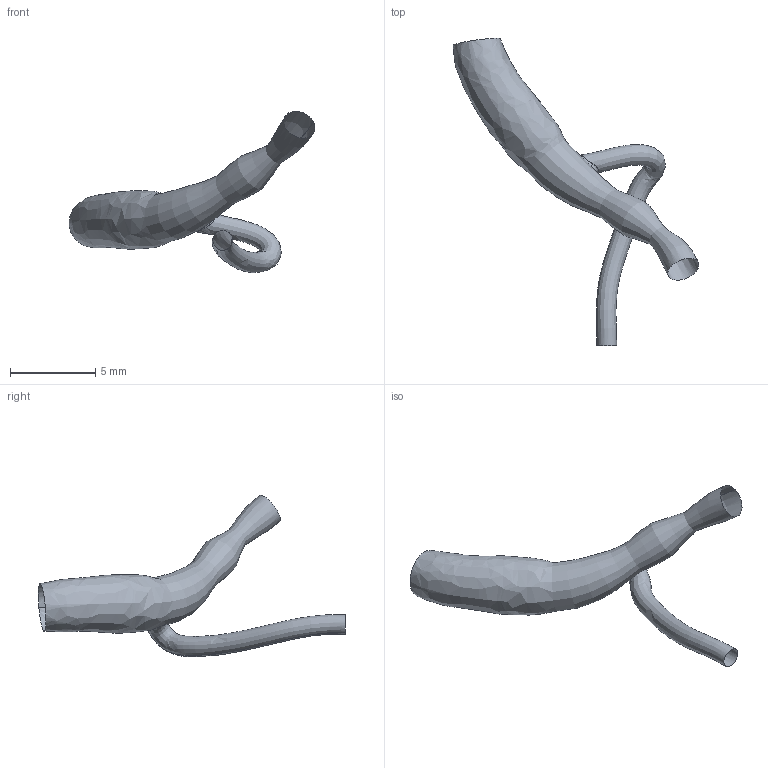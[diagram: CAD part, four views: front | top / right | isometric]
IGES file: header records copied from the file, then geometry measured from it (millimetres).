
Global section: file name: C:\Documents and Settings\Administrator\Desktop\FDA Bifurcation win\RawData_for_IGES\HRCA_Data\20000201.093459\IGES\20000201.093459.RM1.BIFUR.ED.igs; native system: Rhinoceros ( May 19 2006 ); preprocessor: Trout Lake IGES 012 May 19 2006; date: 100728.200629; units: centimetre
Bounding box: 14.44 x 18.06 x 9.48 mm (x, y, z)
Surface area: 222.9 mm2 (no closed solid volume)
Topology: 0 solids, 0 shells, 5 faces, 43 edges, 40 vertices
Faces by surface type: bspline 5
